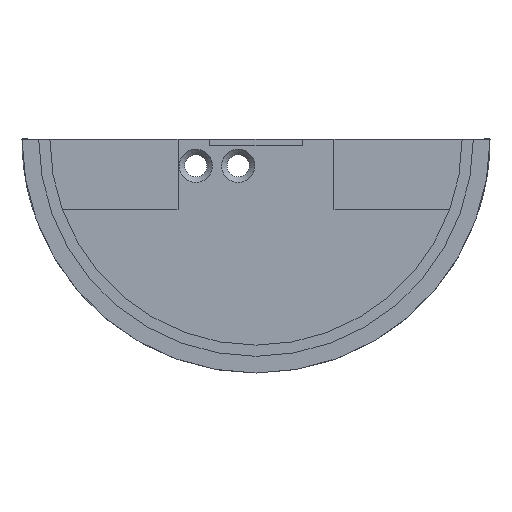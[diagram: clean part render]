
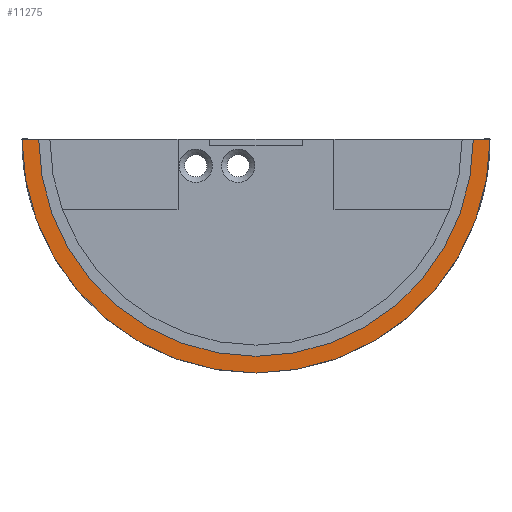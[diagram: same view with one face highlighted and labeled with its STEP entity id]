
A CAD part, left-side view. The second image highlights one B-rep face of the part: STEP entity #11275.
In plain terms, the highlighted planar face has unit normal (-1, 0, 0).
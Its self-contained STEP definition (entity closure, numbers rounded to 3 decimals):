
#33 = CYLINDRICAL_SURFACE('',#34,21.);
#34 = AXIS2_PLACEMENT_3D('',#35,#36,#37);
#35 = CARTESIAN_POINT('',(20.,0.,0.));
#36 = DIRECTION('',(1.,0.,0.));
#37 = DIRECTION('',(0.,0.,-1.));
#779 = VERTEX_POINT('',#780);
#780 = CARTESIAN_POINT('',(20.,-21.,0.));
#793 = PLANE('',#794);
#794 = AXIS2_PLACEMENT_3D('',#795,#796,#797);
#795 = CARTESIAN_POINT('',(-10.,-60.,0.));
#796 = DIRECTION('',(0.,0.,1.));
#797 = DIRECTION('',(1.,0.,-0.));
#804 = EDGE_CURVE('',#779,#805,#807,.T.);
#805 = VERTEX_POINT('',#806);
#806 = CARTESIAN_POINT('',(20.,21.,0.));
#807 = SURFACE_CURVE('',#808,(#813,#820),.PCURVE_S1.);
#808 = CIRCLE('',#809,21.);
#809 = AXIS2_PLACEMENT_3D('',#810,#811,#812);
#810 = CARTESIAN_POINT('',(20.,0.,0.));
#811 = DIRECTION('',(1.,0.,0.));
#812 = DIRECTION('',(0.,-1.,0.));
#813 = PCURVE('',#33,#814);
#814 = DEFINITIONAL_REPRESENTATION('',(#815),#819);
#815 = LINE('',#816,#817);
#816 = CARTESIAN_POINT('',(4.712,0.));
#817 = VECTOR('',#818,1.);
#818 = DIRECTION('',(1.,0.));
#819 = ( GEOMETRIC_REPRESENTATION_CONTEXT(2) 
PARAMETRIC_REPRESENTATION_CONTEXT() REPRESENTATION_CONTEXT('2D SPACE',''
  ) );
#820 = PCURVE('',#821,#826);
#821 = PLANE('',#822);
#822 = AXIS2_PLACEMENT_3D('',#823,#824,#825);
#823 = CARTESIAN_POINT('',(20.,0.,0.));
#824 = DIRECTION('',(1.,0.,0.));
#825 = DIRECTION('',(0.,0.,-1.));
#826 = DEFINITIONAL_REPRESENTATION('',(#827),#831);
#827 = CIRCLE('',#828,21.);
#828 = AXIS2_PLACEMENT_2D('',#829,#830);
#829 = CARTESIAN_POINT('',(0.,0.));
#830 = DIRECTION('',(0.,-1.));
#831 = ( GEOMETRIC_REPRESENTATION_CONTEXT(2) 
PARAMETRIC_REPRESENTATION_CONTEXT() REPRESENTATION_CONTEXT('2D SPACE',''
  ) );
#848 = PLANE('',#849);
#849 = AXIS2_PLACEMENT_3D('',#850,#851,#852);
#850 = CARTESIAN_POINT('',(-10.,-60.,0.));
#851 = DIRECTION('',(0.,0.,1.));
#852 = DIRECTION('',(1.,0.,-0.));
#8562 = CYLINDRICAL_SURFACE('',#8563,19.5);
#8563 = AXIS2_PLACEMENT_3D('',#8564,#8565,#8566);
#8564 = CARTESIAN_POINT('',(19.,0.,0.));
#8565 = DIRECTION('',(1.,0.,0.));
#8566 = DIRECTION('',(0.,0.,-1.));
#8597 = VERTEX_POINT('',#8598);
#8598 = CARTESIAN_POINT('',(20.,-19.5,0.));
#8617 = EDGE_CURVE('',#8597,#8618,#8620,.T.);
#8618 = VERTEX_POINT('',#8619);
#8619 = CARTESIAN_POINT('',(20.,19.5,0.));
#8620 = SURFACE_CURVE('',#8621,(#8626,#8633),.PCURVE_S1.);
#8621 = CIRCLE('',#8622,19.5);
#8622 = AXIS2_PLACEMENT_3D('',#8623,#8624,#8625);
#8623 = CARTESIAN_POINT('',(20.,0.,0.));
#8624 = DIRECTION('',(1.,0.,0.));
#8625 = DIRECTION('',(0.,-0.585,0.811
    ));
#8626 = PCURVE('',#8562,#8627);
#8627 = DEFINITIONAL_REPRESENTATION('',(#8628),#8632);
#8628 = LINE('',#8629,#8630);
#8629 = CARTESIAN_POINT('',(3.766,1.));
#8630 = VECTOR('',#8631,1.);
#8631 = DIRECTION('',(1.,0.));
#8632 = ( GEOMETRIC_REPRESENTATION_CONTEXT(2) 
PARAMETRIC_REPRESENTATION_CONTEXT() REPRESENTATION_CONTEXT('2D SPACE',''
  ) );
#8633 = PCURVE('',#821,#8634);
#8634 = DEFINITIONAL_REPRESENTATION('',(#8635),#8639);
#8635 = CIRCLE('',#8636,19.5);
#8636 = AXIS2_PLACEMENT_2D('',#8637,#8638);
#8637 = CARTESIAN_POINT('',(0.,0.));
#8638 = DIRECTION('',(-0.811,-0.585));
#8639 = ( GEOMETRIC_REPRESENTATION_CONTEXT(2) 
PARAMETRIC_REPRESENTATION_CONTEXT() REPRESENTATION_CONTEXT('2D SPACE',''
  ) );
#11250 = EDGE_CURVE('',#805,#8618,#11251,.T.);
#11251 = SURFACE_CURVE('',#11252,(#11256,#11262),.PCURVE_S1.);
#11252 = LINE('',#11253,#11254);
#11253 = CARTESIAN_POINT('',(20.,-30.,0.));
#11254 = VECTOR('',#11255,1.);
#11255 = DIRECTION('',(0.,-1.,0.));
#11256 = PCURVE('',#848,#11257);
#11257 = DEFINITIONAL_REPRESENTATION('',(#11258),#11261);
#11258 = B_SPLINE_CURVE_WITH_KNOTS('',1,(#11259,#11260),.UNSPECIFIED.,
  .F.,.F.,(2,2),(-51.,-9.),.PIECEWISE_BEZIER_KNOTS.);
#11259 = CARTESIAN_POINT('',(30.,81.));
#11260 = CARTESIAN_POINT('',(30.,39.));
#11261 = ( GEOMETRIC_REPRESENTATION_CONTEXT(2) 
PARAMETRIC_REPRESENTATION_CONTEXT() REPRESENTATION_CONTEXT('2D SPACE',''
  ) );
#11262 = PCURVE('',#821,#11263);
#11263 = DEFINITIONAL_REPRESENTATION('',(#11264),#11267);
#11264 = B_SPLINE_CURVE_WITH_KNOTS('',1,(#11265,#11266),.UNSPECIFIED.,
  .F.,.F.,(2,2),(-51.,-9.),.PIECEWISE_BEZIER_KNOTS.);
#11265 = CARTESIAN_POINT('',(0.,21.));
#11266 = CARTESIAN_POINT('',(0.,-21.));
#11267 = ( GEOMETRIC_REPRESENTATION_CONTEXT(2) 
PARAMETRIC_REPRESENTATION_CONTEXT() REPRESENTATION_CONTEXT('2D SPACE',''
  ) );
#11275 = ADVANCED_FACE('',(#11276),#821,.F.);
#11276 = FACE_BOUND('',#11277,.F.);
#11277 = EDGE_LOOP('',(#11278,#11279,#11298,#11299));
#11278 = ORIENTED_EDGE('',*,*,#8617,.F.);
#11279 = ORIENTED_EDGE('',*,*,#11280,.T.);
#11280 = EDGE_CURVE('',#8597,#779,#11281,.T.);
#11281 = SURFACE_CURVE('',#11282,(#11286,#11292),.PCURVE_S1.);
#11282 = LINE('',#11283,#11284);
#11283 = CARTESIAN_POINT('',(20.,-30.,0.));
#11284 = VECTOR('',#11285,1.);
#11285 = DIRECTION('',(0.,-1.,0.));
#11286 = PCURVE('',#821,#11287);
#11287 = DEFINITIONAL_REPRESENTATION('',(#11288),#11291);
#11288 = B_SPLINE_CURVE_WITH_KNOTS('',1,(#11289,#11290),.UNSPECIFIED.,
  .F.,.F.,(2,2),(-51.,-9.),.PIECEWISE_BEZIER_KNOTS.);
#11289 = CARTESIAN_POINT('',(0.,21.));
#11290 = CARTESIAN_POINT('',(0.,-21.));
#11291 = ( GEOMETRIC_REPRESENTATION_CONTEXT(2) 
PARAMETRIC_REPRESENTATION_CONTEXT() REPRESENTATION_CONTEXT('2D SPACE',''
  ) );
#11292 = PCURVE('',#793,#11293);
#11293 = DEFINITIONAL_REPRESENTATION('',(#11294),#11297);
#11294 = B_SPLINE_CURVE_WITH_KNOTS('',1,(#11295,#11296),.UNSPECIFIED.,
  .F.,.F.,(2,2),(-51.,-9.),.PIECEWISE_BEZIER_KNOTS.);
#11295 = CARTESIAN_POINT('',(30.,81.));
#11296 = CARTESIAN_POINT('',(30.,39.));
#11297 = ( GEOMETRIC_REPRESENTATION_CONTEXT(2) 
PARAMETRIC_REPRESENTATION_CONTEXT() REPRESENTATION_CONTEXT('2D SPACE',''
  ) );
#11298 = ORIENTED_EDGE('',*,*,#804,.T.);
#11299 = ORIENTED_EDGE('',*,*,#11250,.T.);
